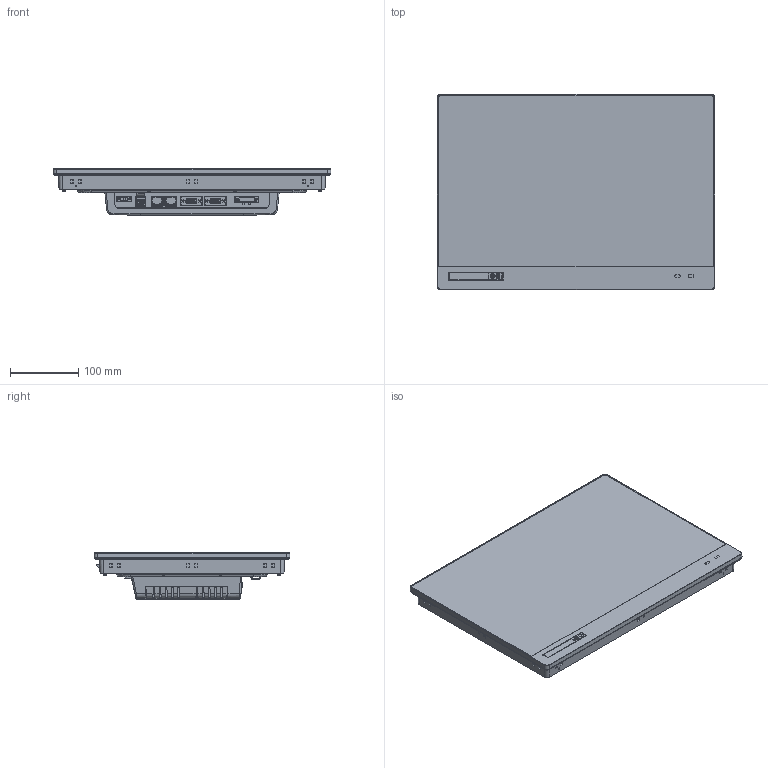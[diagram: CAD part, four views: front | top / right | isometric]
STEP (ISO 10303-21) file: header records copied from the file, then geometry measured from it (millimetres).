
FILE_DESCRIPTION((''),'2;1');
FILE_NAME('3D-TOPRC1500WD__7_1','2024-08-19T16:08:08',('Youngmin'),(''),'CREO PARAMETRIC BY PTC INC, 2022284','CREO PARAMETRIC BY PTC INC, 2022284','');
FILE_SCHEMA(('CONFIG_CONTROL_DESIGN'));
Products named in the file (1): 3D-TOPRC1500WD__7_1
Bounding box: 406.4 x 286.4 x 67.6 mm (x, y, z)
Volume: 4808120.6 mm3; surface area: 339313 mm2
Topology: 1 solids, 20 shells, 2955 faces, 7953 edges, 5171 vertices
Faces by surface type: plane 1823, cylinder 870, bspline 88, cone 64, torus 59, sphere 46, extrusion 5
Entity records: 100000 total; most frequent: CARTESIAN_POINT 28223, ORIENTED_EDGE 15822, DIRECTION 13401, EDGE_CURVE 7911, VERTEX_POINT 5171, VECTOR 5041, LINE 5036, AXIS2_PLACEMENT_3D 4180
